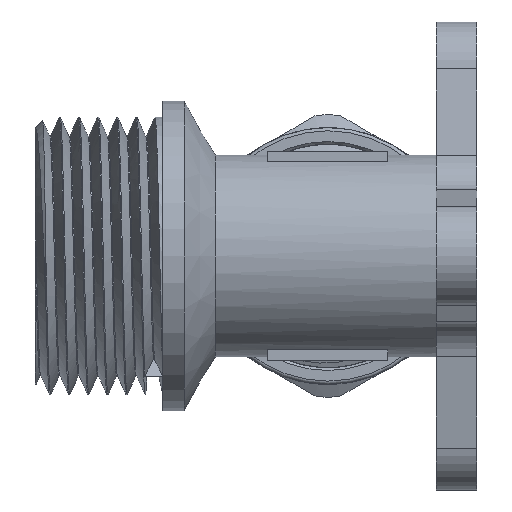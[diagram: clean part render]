
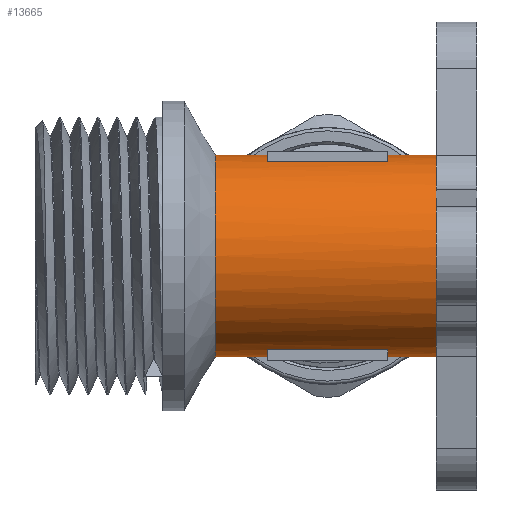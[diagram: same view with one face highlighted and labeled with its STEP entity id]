
A CAD part, left-side view. The second image highlights one B-rep face of the part: STEP entity #13665.
In plain terms, the highlighted cylindrical face has radius 9.5 mm (diameter 19 mm), a full revolution.
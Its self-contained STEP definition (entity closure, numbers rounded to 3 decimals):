
#465=B_SPLINE_CURVE_WITH_KNOTS('',3,(#18866,#18867,#18868,#18869,#18870,
#18871,#18872,#18873,#18874),.UNSPECIFIED.,.F.,.F.,(4,1,1,1,1,1,4),(0.,
0.204,0.407,0.814,1.085,1.357,
1.425),.UNSPECIFIED.);
#466=B_SPLINE_CURVE_WITH_KNOTS('',3,(#18876,#18877,#18878,#18879,#18880,
#18881,#18882,#18883,#18884,#18885,#18886,#18887,#18888,#18889,#18890),
 .UNSPECIFIED.,.F.,.F.,(4,1,1,1,1,1,1,1,1,1,1,1,4),(1.425,1.628,
1.9,2.171,2.442,2.714,2.849,
2.985,3.256,3.528,4.07,4.274,
4.274),.UNSPECIFIED.);
#467=B_SPLINE_CURVE_WITH_KNOTS('',3,(#18891,#18892,#18893,#18894,#18895,
#18896,#18897,#18898),.UNSPECIFIED.,.F.,.F.,(4,1,1,1,1,4),(4.274,
4.477,4.885,5.292,5.495,5.699),
 .UNSPECIFIED.);
#1238=CYLINDRICAL_SURFACE('',#14504,9.5);
#1359=LINE('',#18721,#2357);
#1360=LINE('',#18723,#2358);
#1370=LINE('',#18933,#2368);
#1371=LINE('',#18934,#2369);
#1372=LINE('',#18937,#2370);
#1373=LINE('',#18941,#2371);
#1374=LINE('',#18945,#2372);
#1375=LINE('',#18949,#2373);
#2357=VECTOR('',#15401,10.);
#2358=VECTOR('',#15404,10.);
#2368=VECTOR('',#15440,9.5);
#2369=VECTOR('',#15441,9.5);
#2370=VECTOR('',#15442,10.);
#2371=VECTOR('',#15445,10.);
#2372=VECTOR('',#15448,10.);
#2373=VECTOR('',#15451,10.);
#3343=FACE_BOUND('',#4248,.T.);
#3344=FACE_BOUND('',#4249,.T.);
#3459=FACE_OUTER_BOUND('',#4247,.T.);
#4247=EDGE_LOOP('',(#9252,#9253,#9254,#9255,#9256,#9257,#9258,#9259,#9260,
#9261,#9262,#9263,#9264,#9265));
#4248=EDGE_LOOP('',(#9266,#9267,#9268,#9269));
#4249=EDGE_LOOP('',(#9270,#9271,#9272,#9273));
#5060=CIRCLE('',#14462,9.5);
#5074=CIRCLE('',#14478,9.5);
#5075=CIRCLE('',#14479,9.5);
#5083=CIRCLE('',#14505,9.5);
#5084=CIRCLE('',#14506,9.5);
#5085=CIRCLE('',#14507,9.5);
#5086=CIRCLE('',#14508,9.5);
#5087=CIRCLE('',#14509,9.5);
#5088=CIRCLE('',#14510,9.5);
#5469=VERTEX_POINT('',#18636);
#5470=VERTEX_POINT('',#18637);
#5484=VERTEX_POINT('',#18669);
#5495=VERTEX_POINT('',#18690);
#5496=VERTEX_POINT('',#18692);
#5504=VERTEX_POINT('',#18863);
#5505=VERTEX_POINT('',#18865);
#5506=VERTEX_POINT('',#18875);
#5508=VERTEX_POINT('',#18929);
#5509=VERTEX_POINT('',#18930);
#5510=VERTEX_POINT('',#18935);
#5511=VERTEX_POINT('',#18936);
#5512=VERTEX_POINT('',#18938);
#5513=VERTEX_POINT('',#18940);
#5514=VERTEX_POINT('',#18943);
#5515=VERTEX_POINT('',#18944);
#5516=VERTEX_POINT('',#18946);
#5517=VERTEX_POINT('',#18948);
#6945=EDGE_CURVE('',#5469,#5470,#5060,.T.);
#6972=EDGE_CURVE('',#5496,#5495,#5074,.T.);
#6973=EDGE_CURVE('',#5484,#5496,#5075,.T.);
#6987=EDGE_CURVE('',#5495,#5469,#1359,.T.);
#6988=EDGE_CURVE('',#5484,#5470,#1360,.T.);
#6999=EDGE_CURVE('',#5504,#5505,#465,.T.);
#7000=EDGE_CURVE('',#5505,#5506,#466,.T.);
#7001=EDGE_CURVE('',#5506,#5504,#467,.T.);
#7004=EDGE_CURVE('',#5508,#5509,#5083,.T.);
#7005=EDGE_CURVE('',#5509,#5508,#5084,.T.);
#7006=EDGE_CURVE('',#5509,#5506,#1370,.T.);
#7007=EDGE_CURVE('',#5505,#5496,#1371,.T.);
#7008=EDGE_CURVE('',#5510,#5511,#1372,.T.);
#7009=EDGE_CURVE('',#5511,#5512,#5085,.T.);
#7010=EDGE_CURVE('',#5512,#5513,#1373,.T.);
#7011=EDGE_CURVE('',#5513,#5510,#5086,.T.);
#7012=EDGE_CURVE('',#5514,#5515,#1374,.T.);
#7013=EDGE_CURVE('',#5515,#5516,#5087,.T.);
#7014=EDGE_CURVE('',#5516,#5517,#1375,.T.);
#7015=EDGE_CURVE('',#5517,#5514,#5088,.T.);
#9252=ORIENTED_EDGE('',*,*,#7004,.F.);
#9253=ORIENTED_EDGE('',*,*,#7005,.F.);
#9254=ORIENTED_EDGE('',*,*,#7006,.T.);
#9255=ORIENTED_EDGE('',*,*,#7000,.F.);
#9256=ORIENTED_EDGE('',*,*,#7007,.T.);
#9257=ORIENTED_EDGE('',*,*,#6972,.T.);
#9258=ORIENTED_EDGE('',*,*,#6987,.T.);
#9259=ORIENTED_EDGE('',*,*,#6945,.T.);
#9260=ORIENTED_EDGE('',*,*,#6988,.F.);
#9261=ORIENTED_EDGE('',*,*,#6973,.T.);
#9262=ORIENTED_EDGE('',*,*,#7007,.F.);
#9263=ORIENTED_EDGE('',*,*,#6999,.F.);
#9264=ORIENTED_EDGE('',*,*,#7001,.F.);
#9265=ORIENTED_EDGE('',*,*,#7006,.F.);
#9266=ORIENTED_EDGE('',*,*,#7008,.T.);
#9267=ORIENTED_EDGE('',*,*,#7009,.T.);
#9268=ORIENTED_EDGE('',*,*,#7010,.T.);
#9269=ORIENTED_EDGE('',*,*,#7011,.T.);
#9270=ORIENTED_EDGE('',*,*,#7012,.T.);
#9271=ORIENTED_EDGE('',*,*,#7013,.T.);
#9272=ORIENTED_EDGE('',*,*,#7014,.T.);
#9273=ORIENTED_EDGE('',*,*,#7015,.T.);
#13665=ADVANCED_FACE('',(#3459,#3343,#3344),#1238,.T.);
#14462=AXIS2_PLACEMENT_3D('',#18638,#15319,#15320);
#14478=AXIS2_PLACEMENT_3D('',#18693,#15364,#15365);
#14479=AXIS2_PLACEMENT_3D('',#18694,#15366,#15367);
#14504=AXIS2_PLACEMENT_3D('',#18928,#15434,#15435);
#14505=AXIS2_PLACEMENT_3D('',#18931,#15436,#15437);
#14506=AXIS2_PLACEMENT_3D('',#18932,#15438,#15439);
#14507=AXIS2_PLACEMENT_3D('',#18939,#15443,#15444);
#14508=AXIS2_PLACEMENT_3D('',#18942,#15446,#15447);
#14509=AXIS2_PLACEMENT_3D('',#18947,#15449,#15450);
#14510=AXIS2_PLACEMENT_3D('',#18950,#15452,#15453);
#15319=DIRECTION('center_axis',(0.,1.,0.));
#15320=DIRECTION('ref_axis',(-1.,0.,0.));
#15364=DIRECTION('center_axis',(0.,1.,0.));
#15365=DIRECTION('ref_axis',(1.,0.,0.));
#15366=DIRECTION('center_axis',(0.,1.,0.));
#15367=DIRECTION('ref_axis',(1.,0.,0.));
#15401=DIRECTION('',(0.,1.,0.));
#15404=DIRECTION('',(0.,1.,0.));
#15434=DIRECTION('center_axis',(0.,1.,0.));
#15435=DIRECTION('ref_axis',(-1.,0.,0.));
#15436=DIRECTION('center_axis',(0.,1.,0.));
#15437=DIRECTION('ref_axis',(1.,0.,0.));
#15438=DIRECTION('center_axis',(0.,1.,0.));
#15439=DIRECTION('ref_axis',(1.,0.,0.));
#15440=DIRECTION('',(0.,-1.,0.));
#15441=DIRECTION('',(0.,-1.,0.));
#15442=DIRECTION('',(0.,-1.,0.));
#15443=DIRECTION('center_axis',(0.,-1.,0.));
#15444=DIRECTION('ref_axis',(-1.,0.,0.));
#15445=DIRECTION('',(0.,1.,0.));
#15446=DIRECTION('center_axis',(0.,1.,0.));
#15447=DIRECTION('ref_axis',(-1.,0.,0.));
#15448=DIRECTION('',(0.,1.,0.));
#15449=DIRECTION('center_axis',(0.,1.,0.));
#15450=DIRECTION('ref_axis',(-1.,0.,0.));
#15451=DIRECTION('',(0.,-1.,0.));
#15452=DIRECTION('center_axis',(0.,-1.,0.));
#15453=DIRECTION('ref_axis',(-1.,0.,0.));
#18636=CARTESIAN_POINT('',(9.133,-10.2,-2.616));
#18637=CARTESIAN_POINT('',(9.133,-10.2,2.616));
#18638=CARTESIAN_POINT('Origin',(0.,-10.2,0.));
#18669=CARTESIAN_POINT('',(9.133,-14.,2.616));
#18690=CARTESIAN_POINT('',(9.133,-14.,-2.616));
#18692=CARTESIAN_POINT('',(9.5,-14.,0.));
#18693=CARTESIAN_POINT('Origin',(0.,-14.,0.));
#18694=CARTESIAN_POINT('Origin',(0.,-14.,0.));
#18721=CARTESIAN_POINT('',(9.133,-1.708,-2.616));
#18723=CARTESIAN_POINT('',(9.133,-1.708,2.616));
#18863=CARTESIAN_POINT('',(4.046,0.,8.595));
#18865=CARTESIAN_POINT('',(9.5,-9.5,0.));
#18866=CARTESIAN_POINT('Ctrl Pts',(4.046,0.,
8.595));
#18867=CARTESIAN_POINT('Ctrl Pts',(4.046,-0.778,
8.595));
#18868=CARTESIAN_POINT('Ctrl Pts',(4.444,-2.299,8.415));
#18869=CARTESIAN_POINT('Ctrl Pts',(5.872,-4.824,7.565));
#18870=CARTESIAN_POINT('Ctrl Pts',(7.571,-7.097,5.989));
#18871=CARTESIAN_POINT('Ctrl Pts',(8.984,-8.871,3.446));
#18872=CARTESIAN_POINT('Ctrl Pts',(9.459,-9.449,1.407));
#18873=CARTESIAN_POINT('Ctrl Pts',(9.5,-9.5,0.235));
#18874=CARTESIAN_POINT('Ctrl Pts',(9.5,-9.5,0.001));
#18875=CARTESIAN_POINT('',(9.5,9.5,0.));
#18876=CARTESIAN_POINT('Ctrl Pts',(9.5,-9.5,0.001));
#18877=CARTESIAN_POINT('Ctrl Pts',(9.498,-9.498,-0.703));
#18878=CARTESIAN_POINT('Ctrl Pts',(9.314,-9.275,-2.347));
#18879=CARTESIAN_POINT('Ctrl Pts',(8.431,-8.183,-4.609));
#18880=CARTESIAN_POINT('Ctrl Pts',(7.042,-6.406,-6.497));
#18881=CARTESIAN_POINT('Ctrl Pts',(5.511,-4.227,-7.815));
#18882=CARTESIAN_POINT('Ctrl Pts',(4.32,-2.068,-8.473));
#18883=CARTESIAN_POINT('Ctrl Pts',(3.951,0.001,
-8.636));
#18884=CARTESIAN_POINT('Ctrl Pts',(4.321,2.065,-8.475));
#18885=CARTESIAN_POINT('Ctrl Pts',(5.511,4.233,-7.808));
#18886=CARTESIAN_POINT('Ctrl Pts',(7.551,7.12,-6.076));
#18887=CARTESIAN_POINT('Ctrl Pts',(9.204,9.132,-3.299));
#18888=CARTESIAN_POINT('Ctrl Pts',(9.5,9.501,-0.704));
#18889=CARTESIAN_POINT('Ctrl Pts',(9.5,9.501,0.001));
#18890=CARTESIAN_POINT('Ctrl Pts',(9.5,9.501,0.001));
#18891=CARTESIAN_POINT('Ctrl Pts',(9.5,9.501,0.001));
#18892=CARTESIAN_POINT('Ctrl Pts',(9.5,9.502,0.707));
#18893=CARTESIAN_POINT('Ctrl Pts',(9.258,9.204,2.817));
#18894=CARTESIAN_POINT('Ctrl Pts',(7.831,7.447,5.761));
#18895=CARTESIAN_POINT('Ctrl Pts',(5.873,4.824,7.56));
#18896=CARTESIAN_POINT('Ctrl Pts',(4.444,2.299,8.417));
#18897=CARTESIAN_POINT('Ctrl Pts',(4.046,0.778,8.595));
#18898=CARTESIAN_POINT('Ctrl Pts',(4.046,0.,
8.595));
#18928=CARTESIAN_POINT('Origin',(0.,-1.708,0.));
#18929=CARTESIAN_POINT('',(-9.5,10.584,0.));
#18930=CARTESIAN_POINT('',(9.5,10.584,0.));
#18931=CARTESIAN_POINT('Origin',(0.,10.584,0.));
#18932=CARTESIAN_POINT('Origin',(0.,10.584,0.));
#18933=CARTESIAN_POINT('',(9.5,-1.708,0.));
#18934=CARTESIAN_POINT('',(9.5,-1.708,0.));
#18935=CARTESIAN_POINT('',(-3.5,5.639,-8.832));
#18936=CARTESIAN_POINT('',(-3.5,-5.639,-8.832));
#18937=CARTESIAN_POINT('',(-3.5,-1.708,-8.832));
#18938=CARTESIAN_POINT('',(3.5,-5.639,-8.832));
#18939=CARTESIAN_POINT('Origin',(0.,-5.639,0.));
#18940=CARTESIAN_POINT('',(3.5,5.639,-8.832));
#18941=CARTESIAN_POINT('',(3.5,-1.708,-8.832));
#18942=CARTESIAN_POINT('Origin',(0.,5.639,0.));
#18943=CARTESIAN_POINT('',(-3.5,-5.639,8.832));
#18944=CARTESIAN_POINT('',(-3.5,5.639,8.832));
#18945=CARTESIAN_POINT('',(-3.5,-1.708,8.832));
#18946=CARTESIAN_POINT('',(3.5,5.639,8.832));
#18947=CARTESIAN_POINT('Origin',(0.,5.639,0.));
#18948=CARTESIAN_POINT('',(3.5,-5.639,8.832));
#18949=CARTESIAN_POINT('',(3.5,-1.708,8.832));
#18950=CARTESIAN_POINT('Origin',(0.,-5.639,0.));
